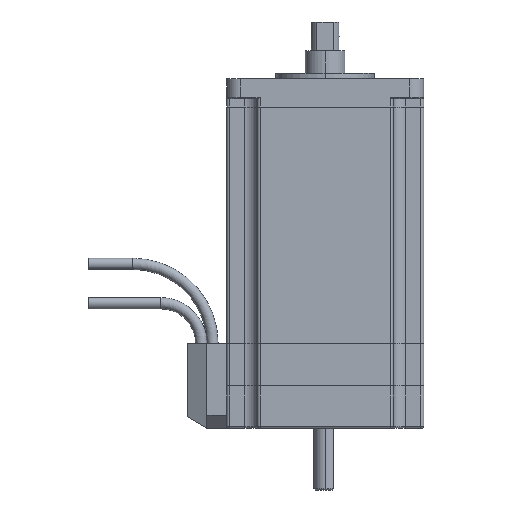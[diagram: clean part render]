
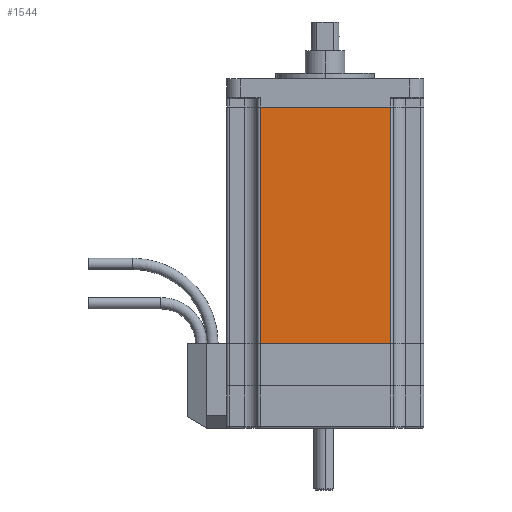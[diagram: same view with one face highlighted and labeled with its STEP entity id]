
A CAD part, left-side view. The second image highlights one B-rep face of the part: STEP entity #1544.
In plain terms, the highlighted planar face has unit normal (-1, 0, 0).
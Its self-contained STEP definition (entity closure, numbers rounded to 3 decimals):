
#308 = CARTESIAN_POINT ( 'NONE',  ( -35., -30., -94. ) ) ;
#458 = EDGE_LOOP ( 'NONE', ( #4642, #9136, #2110, #8406 ) ) ;
#672 = VECTOR ( 'NONE', #4893, 1000. ) ;
#1048 = PLANE ( 'NONE',  #1251 ) ;
#1145 = CARTESIAN_POINT ( 'NONE',  ( -35., -30., -10. ) ) ;
#1223 = LINE ( 'NONE', #308, #6818 ) ;
#1251 = AXIS2_PLACEMENT_3D ( 'NONE', #1597, #3233, #6952 ) ;
#1544 = ADVANCED_FACE ( 'NONE', ( #8146 ), #1048, .T. ) ;
#1597 = CARTESIAN_POINT ( 'NONE',  ( -35., -30., -124. ) ) ;
#1706 = EDGE_CURVE ( 'NONE', #2135, #5179, #9256, .T. ) ;
#1715 = LINE ( 'NONE', #1145, #6090 ) ;
#2095 = VERTEX_POINT ( 'NONE', #5257 ) ;
#2110 = ORIENTED_EDGE ( 'NONE', *, *, #6997, .F. ) ;
#2135 = VERTEX_POINT ( 'NONE', #7447 ) ;
#2181 = VECTOR ( 'NONE', #6425, 1000. ) ;
#2262 = CARTESIAN_POINT ( 'NONE',  ( -35., -23.1, -10. ) ) ;
#2394 = CARTESIAN_POINT ( 'NONE',  ( -35., 23.1, -94. ) ) ;
#3187 = DIRECTION ( 'NONE',  ( 0., 1., 0. ) ) ;
#3233 = DIRECTION ( 'NONE',  ( -1., 0., 0. ) ) ;
#3548 = CARTESIAN_POINT ( 'NONE',  ( -35., 23.1, -124. ) ) ;
#4642 = ORIENTED_EDGE ( 'NONE', *, *, #6122, .F. ) ;
#4893 = DIRECTION ( 'NONE',  ( 0., 0., 1. ) ) ;
#4943 = CARTESIAN_POINT ( 'NONE',  ( -35., -23.1, -7. ) ) ;
#5179 = VERTEX_POINT ( 'NONE', #2262 ) ;
#5257 = CARTESIAN_POINT ( 'NONE',  ( -35., 23.1, -10. ) ) ;
#6090 = VECTOR ( 'NONE', #6782, 1000. ) ;
#6122 = EDGE_CURVE ( 'NONE', #2135, #7532, #1223, .T. ) ;
#6293 = LINE ( 'NONE', #3548, #2181 ) ;
#6425 = DIRECTION ( 'NONE',  ( 0., 0., -1. ) ) ;
#6782 = DIRECTION ( 'NONE',  ( 0., -1., 0. ) ) ;
#6818 = VECTOR ( 'NONE', #3187, 1000. ) ;
#6952 = DIRECTION ( 'NONE',  ( 0., 0., 1. ) ) ;
#6997 = EDGE_CURVE ( 'NONE', #2095, #5179, #1715, .T. ) ;
#7363 = EDGE_CURVE ( 'NONE', #2095, #7532, #6293, .T. ) ;
#7447 = CARTESIAN_POINT ( 'NONE',  ( -35., -23.1, -94. ) ) ;
#7532 = VERTEX_POINT ( 'NONE', #2394 ) ;
#8146 = FACE_OUTER_BOUND ( 'NONE', #458, .T. ) ;
#8406 = ORIENTED_EDGE ( 'NONE', *, *, #7363, .T. ) ;
#9136 = ORIENTED_EDGE ( 'NONE', *, *, #1706, .T. ) ;
#9256 = LINE ( 'NONE', #4943, #672 ) ;
